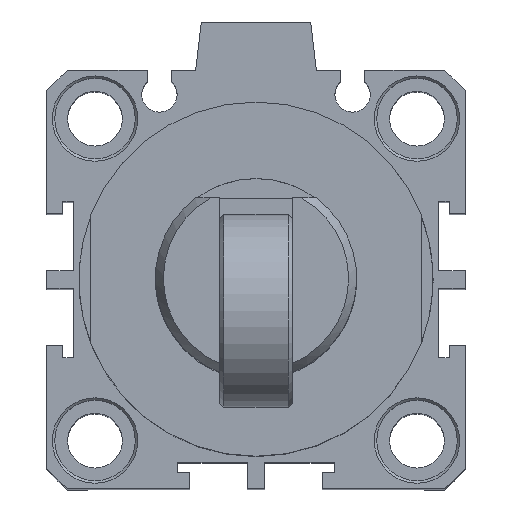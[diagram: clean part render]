
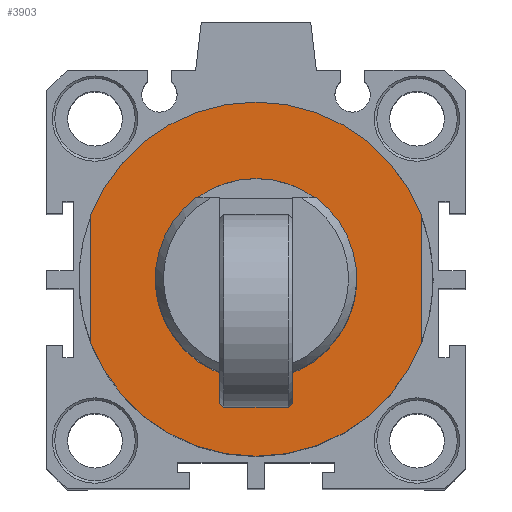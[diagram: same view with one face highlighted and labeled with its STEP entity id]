
A CAD part, top view. The second image highlights one B-rep face of the part: STEP entity #3903.
In plain terms, the highlighted planar face has unit normal (0, 0, 1).
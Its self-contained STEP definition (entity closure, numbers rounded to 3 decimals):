
#348=CARTESIAN_POINT('',(-6.902,11.555,110.2));
#349=VERTEX_POINT('',#348);
#356=CARTESIAN_POINT('',(8.098,11.555,110.2));
#357=VERTEX_POINT('',#356);
#358=CARTESIAN_POINT('',(0.598,1.555,110.2));
#359=DIRECTION('',(0.0,0.0,-1.0));
#360=DIRECTION('',(0.0,1.0,0.0));
#361=AXIS2_PLACEMENT_3D('',#358,#359,#360);
#362=CIRCLE('',#361,12.5);
#363=EDGE_CURVE('',#357,#349,#362,.T.);
#2859=CARTESIAN_POINT('',(21.098,-6.429,110.2));
#2860=VERTEX_POINT('',#2859);
#2867=CARTESIAN_POINT('',(-19.902,-6.429,110.2));
#2868=VERTEX_POINT('',#2867);
#2869=CARTESIAN_POINT('',(0.598,1.555,110.2));
#2870=DIRECTION('',(0.0,0.0,-1.0));
#2871=DIRECTION('',(0.0,1.0,0.0));
#2872=AXIS2_PLACEMENT_3D('',#2869,#2870,#2871);
#2873=CIRCLE('',#2872,22.);
#2874=EDGE_CURVE('',#2860,#2868,#2873,.T.);
#2893=CARTESIAN_POINT('',(-19.902,9.539,110.2));
#2894=VERTEX_POINT('',#2893);
#2901=CARTESIAN_POINT('',(21.098,9.539,110.2));
#2902=VERTEX_POINT('',#2901);
#2903=CARTESIAN_POINT('',(0.598,1.555,110.2));
#2904=DIRECTION('',(0.0,0.0,-1.0));
#2905=DIRECTION('',(0.0,1.0,0.0));
#2906=AXIS2_PLACEMENT_3D('',#2903,#2904,#2905);
#2907=CIRCLE('',#2906,22.);
#2908=EDGE_CURVE('',#2894,#2902,#2907,.T.);
#3872=CARTESIAN_POINT('',(0.598,18.805,110.2));
#3873=DIRECTION('',(0.0,0.0,1.0));
#3874=DIRECTION('',(1.0,0.0,0.0));
#3875=AXIS2_PLACEMENT_3D('',#3872,#3873,#3874);
#3876=PLANE('',#3875);
#3877=CARTESIAN_POINT('',(21.098,-6.429,110.2));
#3878=DIRECTION('',(0.0,1.0,0.0));
#3879=VECTOR('',#3878,15.969);
#3880=LINE('',#3877,#3879);
#3881=EDGE_CURVE('',#2860,#2902,#3880,.T.);
#3882=ORIENTED_EDGE('',*,*,#3881,.T.);
#3883=ORIENTED_EDGE('',*,*,#2908,.F.);
#3884=CARTESIAN_POINT('',(-19.902,9.539,110.2));
#3885=DIRECTION('',(0.0,-1.0,0.0));
#3886=VECTOR('',#3885,15.969);
#3887=LINE('',#3884,#3886);
#3888=EDGE_CURVE('',#2894,#2868,#3887,.T.);
#3889=ORIENTED_EDGE('',*,*,#3888,.T.);
#3890=ORIENTED_EDGE('',*,*,#2874,.F.);
#3891=EDGE_LOOP('',(#3882,#3883,#3889,#3890));
#3892=FACE_OUTER_BOUND('',#3891,.T.);
#3893=CARTESIAN_POINT('',(0.598,1.555,110.2));
#3894=DIRECTION('',(0.0,0.0,-1.0));
#3895=DIRECTION('',(0.0,1.0,0.0));
#3896=AXIS2_PLACEMENT_3D('',#3893,#3894,#3895);
#3897=CIRCLE('',#3896,12.5);
#3898=EDGE_CURVE('',#349,#357,#3897,.T.);
#3899=ORIENTED_EDGE('',*,*,#3898,.T.);
#3900=ORIENTED_EDGE('',*,*,#363,.T.);
#3901=EDGE_LOOP('',(#3899,#3900));
#3902=FACE_BOUND('',#3901,.T.);
#3903=ADVANCED_FACE('',(#3892,#3902),#3876,.T.);
